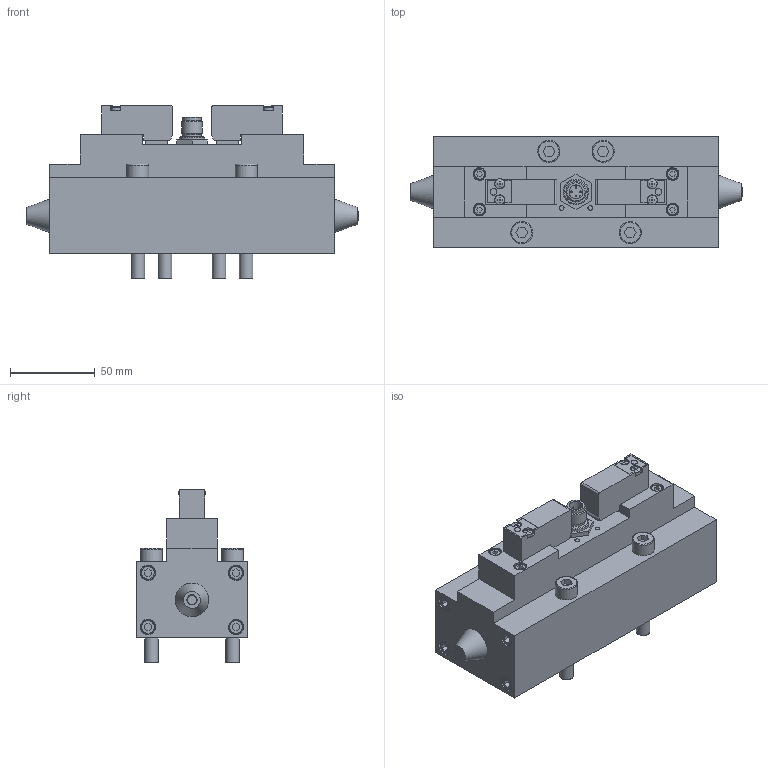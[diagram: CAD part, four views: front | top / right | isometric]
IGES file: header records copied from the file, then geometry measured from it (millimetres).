
Global section: file name: No Iges File Name specified; native system: Autodesk Inventor 2013; preprocessor: AutoDesk Inventor Iges Exporter R2013; author: valotma1; date: 20140318.135417; units: millimetre
Bounding box: 196 x 66 x 102.2 mm (x, y, z)
Volume: 633942.9 mm3; surface area: 68122.9 mm2
Topology: 5 solids, 5 shells, 419 faces, 972 edges, 639 vertices
Faces by surface type: bspline 419
